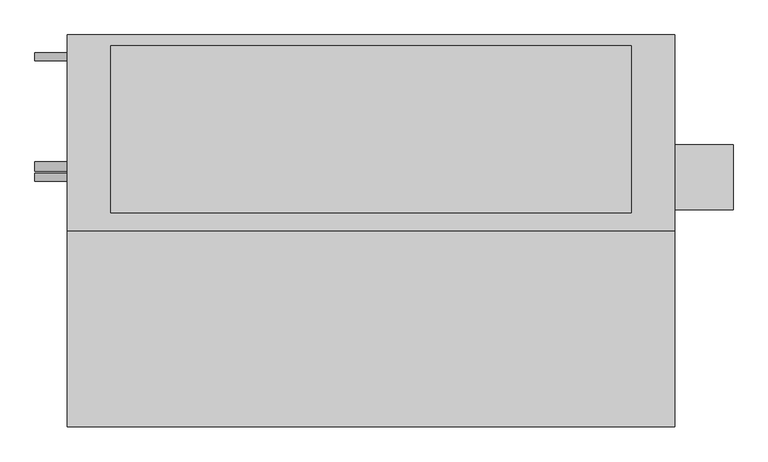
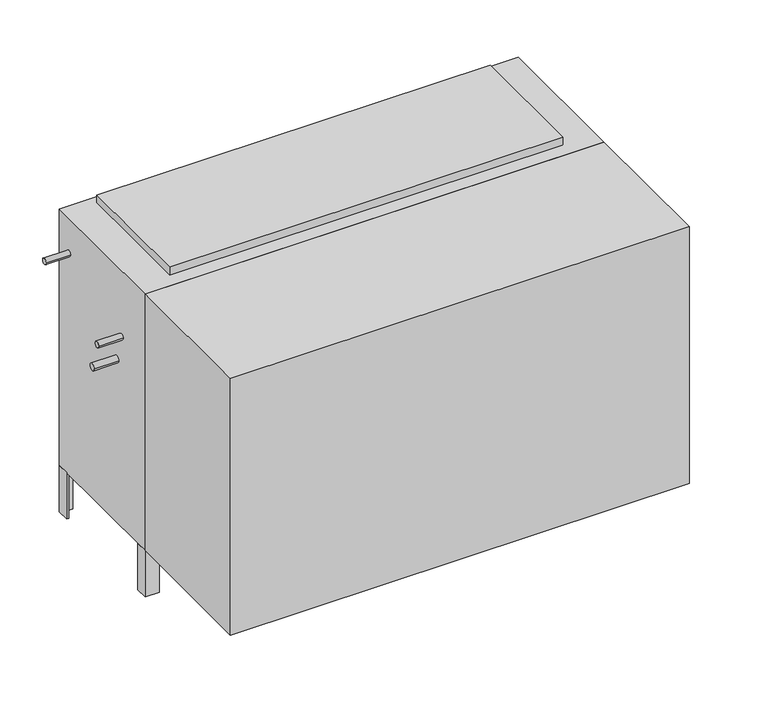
"""IFC4 building model written with IfcOpenShell, lengths in millimetres: proxy geometry, Concealed_High_Capacity_Vertical_Fan_Coil_Unit_-_42DDA_-_CARRIER_-_2-Pipe_Cool-EHeat_LH_2022 : Size 20 - 277v/60Hz/1Ph - 6 Row 14.0kW."""

from ifc_helpers import new_model, si_unit, point, frame, frame_2d, origin, origin_with_axes, place, context, project, spatial, polyline, circle_curve, trimmed, segment, composite_curve, outline, extrude, source, transform, mapped, element, save


def mechanical_equipment_683aed5f(model_context):
    return source(origin(), model_context, "Body", "SweptSolid", [
        extrude(outline(polyline([(863.6, -468.3125), (863.6, -925.5125), (-558.8, -925.5125), (-558.8, -468.3125), (863.6, -468.3125)])), origin_with_axes(), (0.0, 0.0, 1.0), 841.375),
        extrude(outline(polyline([(863.6, -417.5125), (863.6, -265.1125), (1000.125, -265.1125), (1000.125, -417.5125), (863.6, -417.5125)])), frame((0.0, 0.0, 101.6), z_axis=(0.0, 0.0, 1.0), x_axis=(1.0, 0.0, 0.0)), (0.0, 0.0, 1.0), 152.4),
        extrude(outline(polyline([(863.6, -46.0375), (857.25, -46.0375), (857.25, -14.2875), (825.5, -14.2875), (825.5, -7.9375), (863.6, -7.9375), (863.6, -46.0375)])), frame((0.0, 0.0, -152.4), z_axis=(0.0, 0.0, 1.0), x_axis=(1.0, 0.0, 0.0)), (0.0, 0.0, 1.0), 152.4),
        extrude(outline(polyline([(-520.7, -7.9375), (-520.7, -14.2875), (-552.45, -14.2875), (-552.45, -46.0375), (-558.8, -46.0375), (-558.8, -7.9375), (-520.7, -7.9375)])), frame((0.0, 0.0, -152.4), z_axis=(0.0, 0.0, 1.0), x_axis=(1.0, 0.0, 0.0)), (0.0, 0.0, 1.0), 152.4),
        extrude(outline(polyline([(825.5, -468.3125), (825.5, -461.9625), (857.25, -461.9625), (857.25, -430.2125), (863.6, -430.2125), (863.6, -468.3125), (825.5, -468.3125)])), frame((0.0, 0.0, -152.4), z_axis=(0.0, 0.0, 1.0), x_axis=(1.0, 0.0, 0.0)), (0.0, 0.0, 1.0), 152.4),
        extrude(outline(polyline([(-558.8, -428.1199163), (-552.45, -428.1199163), (-552.45, -461.9625), (-515.3318533, -461.9625), (-515.3318533, -468.3125), (-558.8, -468.3125), (-558.8, -428.1199163)])), frame((0.0, 0.0, -152.4), z_axis=(0.0, 0.0, 1.0), x_axis=(1.0, 0.0, 0.0)), (0.0, 0.0, 1.0), 152.4),
        extrude(outline(polyline([(762.0, -33.3375), (762.0, -423.8625), (-457.2, -423.8625), (-457.2, -33.3375), (762.0, -33.3375)])), frame((0.0, 0.0, 841.375), z_axis=(0.0, 0.0, 1.0), x_axis=(1.0, 0.0, 0.0)), (0.0, 0.0, 1.0), 25.4),
        extrude(outline(polyline([(838.2, -471.4875), (-533.4, -471.4875), (-533.4, -468.3125), (838.2, -468.3125), (838.2, -471.4875)])), frame((0.0, 0.0, 50.8), z_axis=(0.0, 0.0, 1.0), x_axis=(1.0, 0.0, 0.0)), (0.0, 0.0, 1.0), 304.8),
        extrude(outline(composite_curve([segment(trimmed(circle_curve(frame_2d((-58.7375, 727.075)), 9.525), [point((-68.2625, 727.075))], [point((-49.2125, 727.075))], False, "CARTESIAN"), True, "CONTINUOUS"), segment(trimmed(circle_curve(frame_2d((-58.7375, 727.075)), 9.525), [point((-49.2125, 727.075))], [point((-68.2625, 727.075))], False, "CARTESIAN"), True, "CONTINUOUS")], self_intersect=False)), frame((-635.0, 0.0, 0.0), z_axis=(1.0, 0.0, 0.0), x_axis=(0.0, 1.0, 0.0)), (0.0, 0.0, 1.0), 76.2),
        extrude(outline(composite_curve([segment(trimmed(circle_curve(frame_2d((-341.3125, 625.475)), 9.525), [point((-350.8375, 625.475))], [point((-331.7875, 625.475))], False, "CARTESIAN"), True, "CONTINUOUS"), segment(trimmed(circle_curve(frame_2d((-341.3125, 625.475)), 9.525), [point((-331.7875, 625.475))], [point((-350.8375, 625.475))], False, "CARTESIAN"), True, "CONTINUOUS")], self_intersect=False)), frame((-635.0, 0.0, 0.0), z_axis=(1.0, 0.0, 0.0), x_axis=(0.0, 1.0, 0.0)), (0.0, 0.0, 1.0), 76.2),
        extrude(outline(composite_curve([segment(trimmed(circle_curve(frame_2d((-315.9125, 536.575)), 11.1125), [point((-327.025, 536.575))], [point((-304.8, 536.575))], False, "CARTESIAN"), True, "CONTINUOUS"), segment(trimmed(circle_curve(frame_2d((-315.9125, 536.575)), 11.1125), [point((-304.8, 536.575))], [point((-327.025, 536.575))], False, "CARTESIAN"), True, "CONTINUOUS")], self_intersect=False)), frame((-635.0, 0.0, 0.0), z_axis=(1.0, 0.0, 0.0), x_axis=(0.0, 1.0, 0.0)), (0.0, 0.0, 1.0), 76.2),
        extrude(outline(polyline([(863.6, -7.9375), (863.6, -468.3125), (-558.8, -468.3125), (-558.8, -7.9375), (863.6, -7.9375)])), origin_with_axes(), (0.0, 0.0, 1.0), 841.375),
    ])


if __name__ == "__main__":
    model = new_model("IFC4")
    model_context = context("Model", 3, world=origin())
    ifc_project = project(units=[si_unit("LENGTHUNIT", "METRE", prefix="MILLI")], contexts=[model_context])
    site = spatial("IfcSite", under=ifc_project)
    building = spatial("IfcBuilding", under=site)
    placement = place(None, origin())
    mechanical_equipment_shape = mechanical_equipment_683aed5f(model_context)
    element("IfcBuildingElementProxy", 1, Name="Concealed_High_Capacity_Vertical_Fan_Coil_Unit_-_42DDA_-_CARRIER_-_2-Pipe_Cool-EHeat_LH_2022 : Size 20 - 277v/60Hz/1Ph - 6 Row 14.0kW", ObjectType="Concealed_High_Capacity_Vertical_Fan_Coil_Unit_-_42DDA_-_CARRIER_-_2-Pipe_Cool-EHeat_LH_2022 : Size 20 - 277v/60Hz/1Ph - 6 Row 14.0kW", at=placement, inside=building, context=model_context, shape_type="MappedRepresentation", body=[
        mapped(mechanical_equipment_shape, transform((0.0, 0.0, 0.0), x_axis=(1.0, 0.0, 0.0), y_axis=(0.0, 1.0, 0.0), z_axis=(0.0, 0.0, 1.0))),
    ])
    save(model, "model.ifc")
